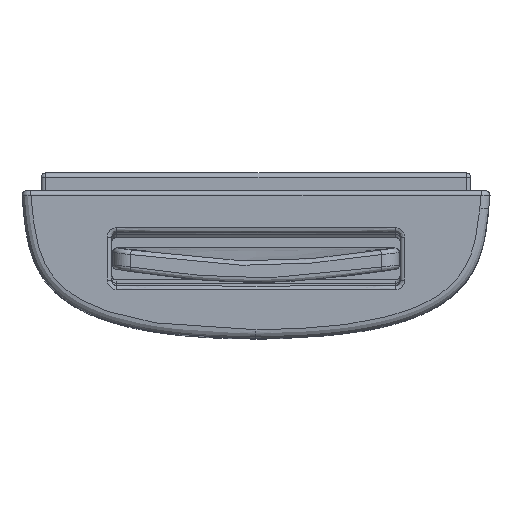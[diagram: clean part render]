
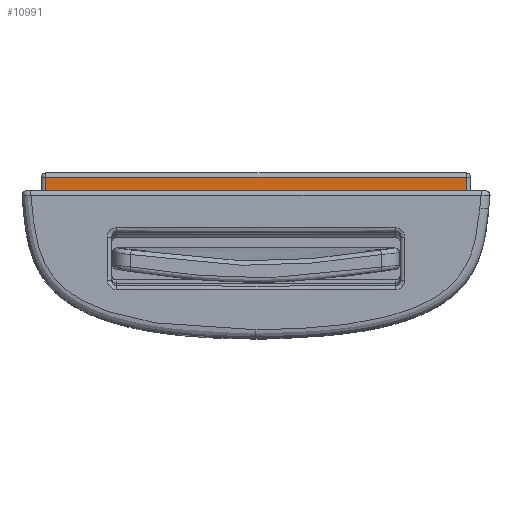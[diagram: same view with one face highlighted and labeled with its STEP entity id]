
A CAD part, top view. The second image highlights one B-rep face of the part: STEP entity #10991.
In plain terms, the highlighted planar face has unit normal (0, 0, 1).
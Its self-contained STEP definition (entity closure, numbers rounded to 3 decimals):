
#1259 = VECTOR ( 'NONE', #14425, 1000. ) ;
#2345 = LINE ( 'NONE', #19872, #11034 ) ;
#2740 = ORIENTED_EDGE ( 'NONE', *, *, #15631, .F. ) ;
#3318 = VERTEX_POINT ( 'NONE', #10302 ) ;
#3464 = CARTESIAN_POINT ( 'NONE',  ( 23.5, 6.5, 6. ) ) ;
#3489 = EDGE_LOOP ( 'NONE', ( #2740, #15085, #17484, #3753 ) ) ;
#3495 = CARTESIAN_POINT ( 'NONE',  ( 0., 6.5, 6. ) ) ;
#3753 = ORIENTED_EDGE ( 'NONE', *, *, #17469, .F. ) ;
#4906 = VERTEX_POINT ( 'NONE', #17060 ) ;
#5340 = LINE ( 'NONE', #3495, #1259 ) ;
#6083 = CARTESIAN_POINT ( 'NONE',  ( 23.5, 8., 6. ) ) ;
#6559 = DIRECTION ( 'NONE',  ( -1., 0., 0. ) ) ;
#6934 = LINE ( 'NONE', #16302, #14688 ) ;
#7057 = AXIS2_PLACEMENT_3D ( 'NONE', #3464, #15826, #6559 ) ;
#8439 = LINE ( 'NONE', #9020, #8951 ) ;
#8582 = VERTEX_POINT ( 'NONE', #6083 ) ;
#8951 = VECTOR ( 'NONE', #18287, 1000. ) ;
#9020 = CARTESIAN_POINT ( 'NONE',  ( -23.5, 7.25, 6. ) ) ;
#10302 = CARTESIAN_POINT ( 'NONE',  ( -23.5, 8., 6. ) ) ;
#10617 = DIRECTION ( 'NONE',  ( 0., -1., 0. ) ) ;
#10991 = ADVANCED_FACE ( 'NONE', ( #17213 ), #15755, .F. ) ;
#11034 = VECTOR ( 'NONE', #10617, 1000. ) ;
#13162 = EDGE_CURVE ( 'NONE', #4906, #13895, #5340, .T. ) ;
#13895 = VERTEX_POINT ( 'NONE', #14744 ) ;
#14425 = DIRECTION ( 'NONE',  ( -1., 0., 0. ) ) ;
#14688 = VECTOR ( 'NONE', #17836, 1000. ) ;
#14744 = CARTESIAN_POINT ( 'NONE',  ( -23.5, 6.5, 6. ) ) ;
#15085 = ORIENTED_EDGE ( 'NONE', *, *, #13162, .F. ) ;
#15631 = EDGE_CURVE ( 'NONE', #13895, #3318, #8439, .T. ) ;
#15755 = PLANE ( 'NONE',  #7057 ) ;
#15826 = DIRECTION ( 'NONE',  ( 0., 0., -1. ) ) ;
#16302 = CARTESIAN_POINT ( 'NONE',  ( 0., 8., 6. ) ) ;
#17060 = CARTESIAN_POINT ( 'NONE',  ( 23.5, 6.5, 6. ) ) ;
#17213 = FACE_OUTER_BOUND ( 'NONE', #3489, .T. ) ;
#17469 = EDGE_CURVE ( 'NONE', #3318, #8582, #6934, .T. ) ;
#17484 = ORIENTED_EDGE ( 'NONE', *, *, #19822, .F. ) ;
#17836 = DIRECTION ( 'NONE',  ( 1., 0., 0. ) ) ;
#18287 = DIRECTION ( 'NONE',  ( 0., 1., 0. ) ) ;
#19822 = EDGE_CURVE ( 'NONE', #8582, #4906, #2345, .T. ) ;
#19872 = CARTESIAN_POINT ( 'NONE',  ( 23.5, 7.25, 6. ) ) ;
